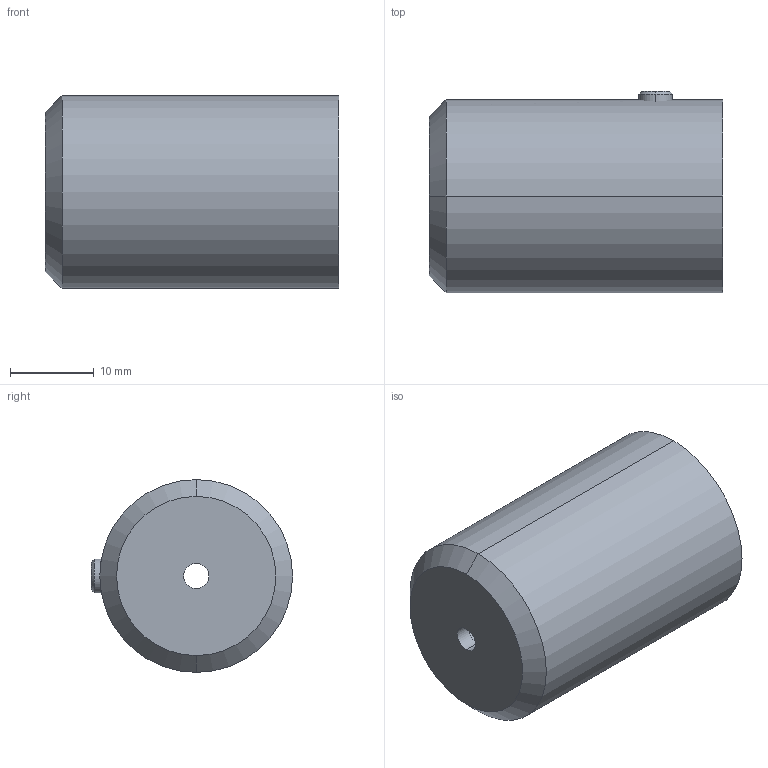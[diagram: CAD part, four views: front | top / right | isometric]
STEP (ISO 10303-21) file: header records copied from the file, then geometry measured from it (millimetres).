
FILE_DESCRIPTION (( 'STEP AP214' ), '1' );
FILE_NAME ('A.STEP', '2017-04-12T13:49:29', ( '' ), ( '' ), 'SwSTEP 2.0', 'SolidWorks 2016', '' );
FILE_SCHEMA (( 'AUTOMOTIVE_DESIGN' ));
Length unit declared in the file: millimetre
Products named in the file (1): A
Bounding box: 35 x 24 x 23 mm (x, y, z)
Volume: 7441.8 mm3; surface area: 4889.7 mm2
Topology: 2 solids, 2 shells, 52 faces, 124 edges, 75 vertices
Faces by surface type: plane 22, cone 16, cylinder 14
Entity records: 2211 total; most frequent: CARTESIAN_POINT 390, DIRECTION 258, ORIENTED_EDGE 244, EDGE_CURVE 122, AXIS2_PLACEMENT_3D 99, VERTEX_POINT 75, LINE 60, VECTOR 60
